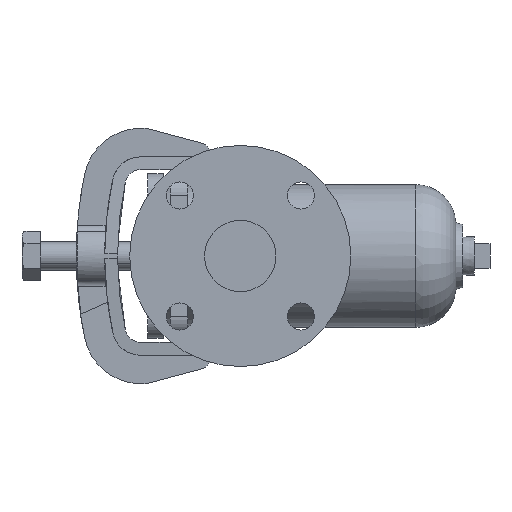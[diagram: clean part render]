
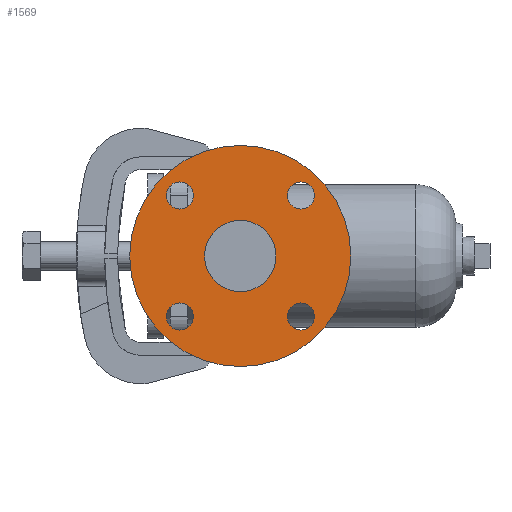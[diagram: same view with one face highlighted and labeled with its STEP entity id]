
A CAD part, left-side view. The second image highlights one B-rep face of the part: STEP entity #1569.
In plain terms, the highlighted planar face has unit normal (-1, 0, 0).
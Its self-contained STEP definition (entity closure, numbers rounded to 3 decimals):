
#171 = CIRCLE ( 'NONE', #2087, 77.5 ) ;
#174 = CARTESIAN_POINT ( 'NONE',  ( -100., 0., -77.5 ) ) ;
#229 = CARTESIAN_POINT ( 'NONE',  ( -100., 0., 0. ) ) ;
#260 = FACE_BOUND ( 'NONE', #738, .T. ) ;
#497 = CARTESIAN_POINT ( 'NONE',  ( -100., 0., 0. ) ) ;
#507 = CIRCLE ( 'NONE', #925, 9.5 ) ;
#530 = CIRCLE ( 'NONE', #7982, 9.5 ) ;
#533 = VERTEX_POINT ( 'NONE', #3034 ) ;
#613 = CIRCLE ( 'NONE', #5348, 25. ) ;
#625 = DIRECTION ( 'NONE',  ( -1., 0., 0. ) ) ;
#714 = DIRECTION ( 'NONE',  ( 0., 0., 1. ) ) ;
#721 = CARTESIAN_POINT ( 'NONE',  ( -100., 42.426, -42.426 ) ) ;
#738 = EDGE_LOOP ( 'NONE', ( #8192, #3613 ) ) ;
#775 = AXIS2_PLACEMENT_3D ( 'NONE', #1381, #2546, #6418 ) ;
#925 = AXIS2_PLACEMENT_3D ( 'NONE', #6827, #1722, #975 ) ;
#946 = DIRECTION ( 'NONE',  ( -1., 0., 0. ) ) ;
#948 = VERTEX_POINT ( 'NONE', #3289 ) ;
#951 = DIRECTION ( 'NONE',  ( 0., 0., -1. ) ) ;
#975 = DIRECTION ( 'NONE',  ( 0., -1., 0. ) ) ;
#1014 = DIRECTION ( 'NONE',  ( -1., 0., 0. ) ) ;
#1155 = VERTEX_POINT ( 'NONE', #1170 ) ;
#1170 = CARTESIAN_POINT ( 'NONE',  ( -100., -42.426, 51.926 ) ) ;
#1299 = VERTEX_POINT ( 'NONE', #174 ) ;
#1341 = AXIS2_PLACEMENT_3D ( 'NONE', #5673, #3848, #3131 ) ;
#1381 = CARTESIAN_POINT ( 'NONE',  ( -100., -42.426, -42.426 ) ) ;
#1507 = DIRECTION ( 'NONE',  ( 0., 0., -1. ) ) ;
#1569 = ADVANCED_FACE ( 'NONE', ( #260, #8034, #2214, #5476, #3567, #4806 ), #8079, .F. ) ;
#1582 = DIRECTION ( 'NONE',  ( 1., 0., 0. ) ) ;
#1722 = DIRECTION ( 'NONE',  ( -1., 0., 0. ) ) ;
#1791 = DIRECTION ( 'NONE',  ( 0., 0., 1. ) ) ;
#1891 = AXIS2_PLACEMENT_3D ( 'NONE', #7386, #1582, #951 ) ;
#1909 = DIRECTION ( 'NONE',  ( -1., 0., 0. ) ) ;
#2087 = AXIS2_PLACEMENT_3D ( 'NONE', #497, #625, #3252 ) ;
#2091 = EDGE_CURVE ( 'NONE', #2721, #5333, #5088, .T. ) ;
#2214 = FACE_BOUND ( 'NONE', #5890, .T. ) ;
#2223 = VERTEX_POINT ( 'NONE', #4054 ) ;
#2282 = EDGE_CURVE ( 'NONE', #1299, #5908, #2386, .T. ) ;
#2386 = CIRCLE ( 'NONE', #6184, 77.5 ) ;
#2546 = DIRECTION ( 'NONE',  ( -1., 0., 0. ) ) ;
#2594 = ORIENTED_EDGE ( 'NONE', *, *, #5372, .F. ) ;
#2707 = EDGE_LOOP ( 'NONE', ( #4905, #4181 ) ) ;
#2721 = VERTEX_POINT ( 'NONE', #4821 ) ;
#2746 = EDGE_CURVE ( 'NONE', #4726, #948, #613, .T. ) ;
#2864 = EDGE_CURVE ( 'NONE', #6698, #1155, #530, .T. ) ;
#2875 = ORIENTED_EDGE ( 'NONE', *, *, #2091, .F. ) ;
#3034 = CARTESIAN_POINT ( 'NONE',  ( -100., 42.426, -51.926 ) ) ;
#3047 = AXIS2_PLACEMENT_3D ( 'NONE', #4694, #5327, #5287 ) ;
#3131 = DIRECTION ( 'NONE',  ( 0., 1., 0. ) ) ;
#3172 = CARTESIAN_POINT ( 'NONE',  ( -100., -42.426, 32.926 ) ) ;
#3252 = DIRECTION ( 'NONE',  ( 0., 0., 1. ) ) ;
#3289 = CARTESIAN_POINT ( 'NONE',  ( -100., 0., 25. ) ) ;
#3445 = EDGE_LOOP ( 'NONE', ( #4136, #4449 ) ) ;
#3537 = VERTEX_POINT ( 'NONE', #6144 ) ;
#3562 = CIRCLE ( 'NONE', #7626, 9.5 ) ;
#3567 = FACE_BOUND ( 'NONE', #6930, .T. ) ;
#3613 = ORIENTED_EDGE ( 'NONE', *, *, #7418, .F. ) ;
#3758 = AXIS2_PLACEMENT_3D ( 'NONE', #6958, #4842, #8188 ) ;
#3848 = DIRECTION ( 'NONE',  ( -1., 0., 0. ) ) ;
#3878 = CIRCLE ( 'NONE', #775, 9.5 ) ;
#3934 = CIRCLE ( 'NONE', #6107, 9.5 ) ;
#4054 = CARTESIAN_POINT ( 'NONE',  ( -100., -42.426, -32.926 ) ) ;
#4136 = ORIENTED_EDGE ( 'NONE', *, *, #8356, .T. ) ;
#4155 = CARTESIAN_POINT ( 'NONE',  ( -100., -42.426, 42.426 ) ) ;
#4181 = ORIENTED_EDGE ( 'NONE', *, *, #2864, .F. ) ;
#4251 = EDGE_CURVE ( 'NONE', #1155, #6698, #3934, .T. ) ;
#4294 = AXIS2_PLACEMENT_3D ( 'NONE', #4743, #7326, #714 ) ;
#4449 = ORIENTED_EDGE ( 'NONE', *, *, #2282, .T. ) ;
#4490 = DIRECTION ( 'NONE',  ( 0., 0., 1. ) ) ;
#4573 = CIRCLE ( 'NONE', #4294, 9.5 ) ;
#4694 = CARTESIAN_POINT ( 'NONE',  ( -100., 42.426, 42.426 ) ) ;
#4726 = VERTEX_POINT ( 'NONE', #5011 ) ;
#4743 = CARTESIAN_POINT ( 'NONE',  ( -100., 42.426, -42.426 ) ) ;
#4806 = FACE_OUTER_BOUND ( 'NONE', #3445, .T. ) ;
#4821 = CARTESIAN_POINT ( 'NONE',  ( -100., 42.426, 51.926 ) ) ;
#4829 = ORIENTED_EDGE ( 'NONE', *, *, #2746, .F. ) ;
#4842 = DIRECTION ( 'NONE',  ( -1., 0., 0. ) ) ;
#4904 = EDGE_LOOP ( 'NONE', ( #7432, #7713 ) ) ;
#4905 = ORIENTED_EDGE ( 'NONE', *, *, #4251, .F. ) ;
#5011 = CARTESIAN_POINT ( 'NONE',  ( -100., 0., -25. ) ) ;
#5088 = CIRCLE ( 'NONE', #3047, 9.5 ) ;
#5193 = DIRECTION ( 'NONE',  ( -1., 0., 0. ) ) ;
#5287 = DIRECTION ( 'NONE',  ( 0., -1., 0. ) ) ;
#5290 = EDGE_CURVE ( 'NONE', #3537, #533, #4573, .T. ) ;
#5327 = DIRECTION ( 'NONE',  ( -1., 0., 0. ) ) ;
#5333 = VERTEX_POINT ( 'NONE', #5879 ) ;
#5348 = AXIS2_PLACEMENT_3D ( 'NONE', #229, #7599, #1791 ) ;
#5372 = EDGE_CURVE ( 'NONE', #5333, #2721, #507, .T. ) ;
#5400 = VERTEX_POINT ( 'NONE', #6901 ) ;
#5476 = FACE_BOUND ( 'NONE', #4904, .T. ) ;
#5576 = DIRECTION ( 'NONE',  ( 0., 0., 1. ) ) ;
#5673 = CARTESIAN_POINT ( 'NONE',  ( -100., -42.426, -42.426 ) ) ;
#5792 = CIRCLE ( 'NONE', #3758, 25. ) ;
#5879 = CARTESIAN_POINT ( 'NONE',  ( -100., 42.426, 32.926 ) ) ;
#5890 = EDGE_LOOP ( 'NONE', ( #2875, #2594 ) ) ;
#5908 = VERTEX_POINT ( 'NONE', #8010 ) ;
#6107 = AXIS2_PLACEMENT_3D ( 'NONE', #6593, #5193, #1507 ) ;
#6144 = CARTESIAN_POINT ( 'NONE',  ( -100., 42.426, -32.926 ) ) ;
#6184 = AXIS2_PLACEMENT_3D ( 'NONE', #7410, #1014, #5576 ) ;
#6418 = DIRECTION ( 'NONE',  ( 0., 1., 0. ) ) ;
#6539 = EDGE_CURVE ( 'NONE', #948, #4726, #5792, .T. ) ;
#6593 = CARTESIAN_POINT ( 'NONE',  ( -100., -42.426, 42.426 ) ) ;
#6625 = DIRECTION ( 'NONE',  ( 0., 0., -1. ) ) ;
#6652 = EDGE_CURVE ( 'NONE', #2223, #5400, #8241, .T. ) ;
#6698 = VERTEX_POINT ( 'NONE', #3172 ) ;
#6827 = CARTESIAN_POINT ( 'NONE',  ( -100., 42.426, 42.426 ) ) ;
#6901 = CARTESIAN_POINT ( 'NONE',  ( -100., -42.426, -51.926 ) ) ;
#6930 = EDGE_LOOP ( 'NONE', ( #7564, #4829 ) ) ;
#6958 = CARTESIAN_POINT ( 'NONE',  ( -100., 0., 0. ) ) ;
#7326 = DIRECTION ( 'NONE',  ( -1., 0., 0. ) ) ;
#7386 = CARTESIAN_POINT ( 'NONE',  ( -100., 0., 0. ) ) ;
#7410 = CARTESIAN_POINT ( 'NONE',  ( -100., 0., 0. ) ) ;
#7418 = EDGE_CURVE ( 'NONE', #5400, #2223, #3878, .T. ) ;
#7432 = ORIENTED_EDGE ( 'NONE', *, *, #5290, .F. ) ;
#7564 = ORIENTED_EDGE ( 'NONE', *, *, #6539, .F. ) ;
#7599 = DIRECTION ( 'NONE',  ( -1., 0., 0. ) ) ;
#7626 = AXIS2_PLACEMENT_3D ( 'NONE', #721, #1909, #4490 ) ;
#7713 = ORIENTED_EDGE ( 'NONE', *, *, #7753, .F. ) ;
#7753 = EDGE_CURVE ( 'NONE', #533, #3537, #3562, .T. ) ;
#7982 = AXIS2_PLACEMENT_3D ( 'NONE', #4155, #946, #6625 ) ;
#8010 = CARTESIAN_POINT ( 'NONE',  ( -100., 0., 77.5 ) ) ;
#8034 = FACE_BOUND ( 'NONE', #2707, .T. ) ;
#8079 = PLANE ( 'NONE',  #1891 ) ;
#8188 = DIRECTION ( 'NONE',  ( 0., 0., 1. ) ) ;
#8192 = ORIENTED_EDGE ( 'NONE', *, *, #6652, .F. ) ;
#8241 = CIRCLE ( 'NONE', #1341, 9.5 ) ;
#8356 = EDGE_CURVE ( 'NONE', #5908, #1299, #171, .T. ) ;
